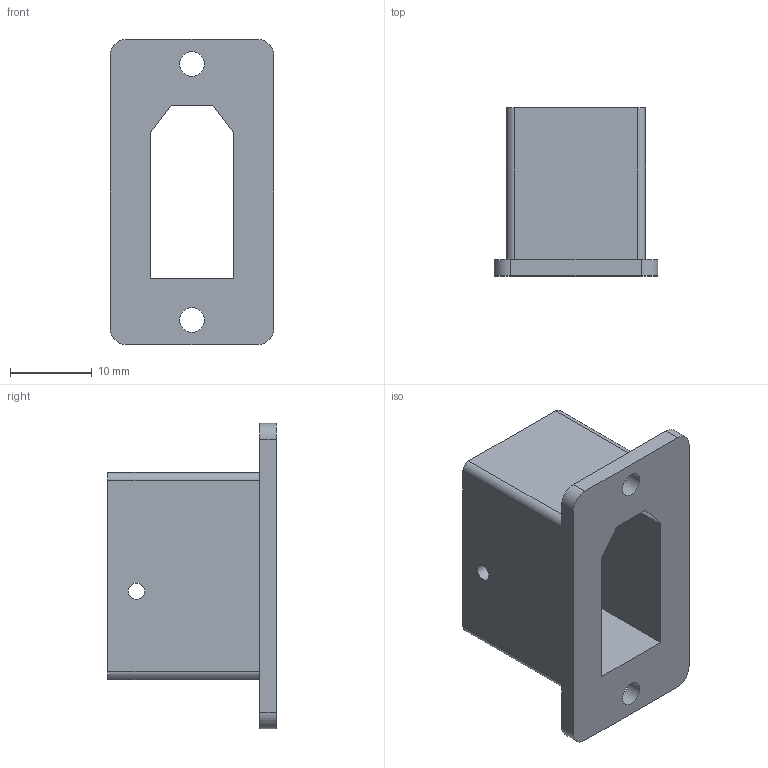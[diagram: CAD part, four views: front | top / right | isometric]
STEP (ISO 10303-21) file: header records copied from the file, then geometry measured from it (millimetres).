
FILE_DESCRIPTION(/* description */ (''),/* implementation_level */ '2;1');
FILE_NAME(/* name */ 'C:/Users/kbaumann/Desktop/XT90 Halter v5.step',/* time_stamp */ '2017-07-18T08:30:59+02:00',/* author */ (''),/* organization */ (''),/* preprocessor_version */ 'ST-DEVELOPER v16.13',/* originating_system */ 'Autodesk Translation Framework v6.1.1.50',/* authorisation */ '');
FILE_SCHEMA (('AUTOMOTIVE_DESIGN { 1 0 10303 214 3 1 1 }'));
Length unit declared in the file: millimetre
Products named in the file (1): XT90 Halter v5
Bounding box: 20 x 20.57 x 37.3 mm (x, y, z)
Volume: 5052.9 mm3; surface area: 4099 mm2
Topology: 1 solids, 1 shells, 35 faces, 96 edges, 64 vertices
Faces by surface type: plane 23, cylinder 12
Full cylindrical faces by diameter (mm): 2 x2, 3 x2
Entity records: 1143 total; most frequent: CARTESIAN_POINT 192, DIRECTION 188, ORIENTED_EDGE 184, EDGE_CURVE 92, LINE 68, VECTOR 68, VERTEX_POINT 64, AXIS2_PLACEMENT_3D 60
